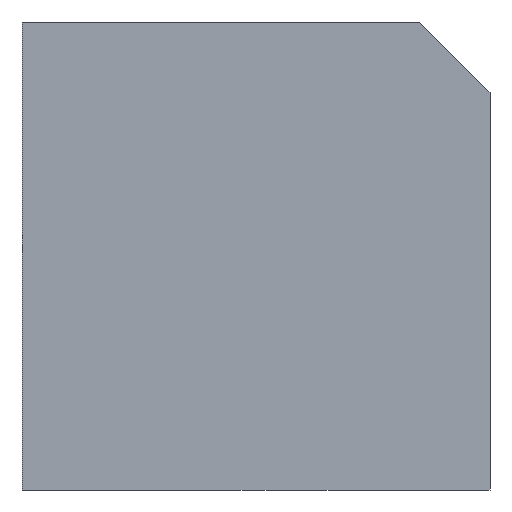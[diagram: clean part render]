
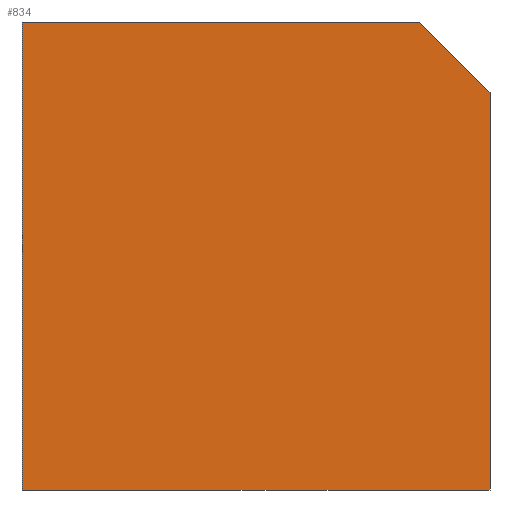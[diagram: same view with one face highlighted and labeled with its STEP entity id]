
A CAD part, front view. The second image highlights one B-rep face of the part: STEP entity #834.
In plain terms, the highlighted planar face has unit normal (0, -1, 0).
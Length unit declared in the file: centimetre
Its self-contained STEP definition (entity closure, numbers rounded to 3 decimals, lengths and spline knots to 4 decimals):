
#4 = ORIENTED_EDGE ( 'NONE', *, *, #789, .F. ) ;
#80 = LINE ( 'NONE', #619, #341 ) ;
#140 = LINE ( 'NONE', #876, #769 ) ;
#144 = DIRECTION ( 'NONE',  ( 1., 0., 0. ) ) ;
#146 = ORIENTED_EDGE ( 'NONE', *, *, #792, .T. ) ;
#184 = EDGE_CURVE ( 'NONE', #717, #553, #687, .T. ) ;
#193 = DIRECTION ( 'NONE',  ( 1., 0., 0. ) ) ;
#202 = ORIENTED_EDGE ( 'NONE', *, *, #184, .F. ) ;
#250 = CARTESIAN_POINT ( 'NONE',  ( 848.4063, 0., 1000. ) ) ;
#264 = LINE ( 'NONE', #520, #506 ) ;
#275 = VERTEX_POINT ( 'NONE', #471 ) ;
#277 = PLANE ( 'NONE',  #305 ) ;
#278 = ORIENTED_EDGE ( 'NONE', *, *, #348, .T. ) ;
#305 = AXIS2_PLACEMENT_3D ( 'NONE', #481, #613, #682 ) ;
#325 = CARTESIAN_POINT ( 'NONE',  ( 1000., 0., 848.4063 ) ) ;
#341 = VECTOR ( 'NONE', #679, 100. ) ;
#348 = EDGE_CURVE ( 'NONE', #717, #575, #80, .T. ) ;
#350 = FACE_OUTER_BOUND ( 'NONE', #775, .T. ) ;
#454 = LINE ( 'NONE', #736, #611 ) ;
#470 = ORIENTED_EDGE ( 'NONE', *, *, #828, .T. ) ;
#471 = CARTESIAN_POINT ( 'NONE',  ( 0., 0., 1000. ) ) ;
#481 = CARTESIAN_POINT ( 'NONE',  ( 0., 0., 1000. ) ) ;
#501 = CARTESIAN_POINT ( 'NONE',  ( 1000., 0., 0. ) ) ;
#506 = VECTOR ( 'NONE', #193, 100. ) ;
#520 = CARTESIAN_POINT ( 'NONE',  ( 0., 0., 1000. ) ) ;
#553 = VERTEX_POINT ( 'NONE', #501 ) ;
#566 = DIRECTION ( 'NONE',  ( 0., 0., -1. ) ) ;
#572 = CARTESIAN_POINT ( 'NONE',  ( 1000., 0., 1000. ) ) ;
#575 = VERTEX_POINT ( 'NONE', #250 ) ;
#607 = DIRECTION ( 'NONE',  ( 0., 0., -1. ) ) ;
#611 = VECTOR ( 'NONE', #144, 100. ) ;
#613 = DIRECTION ( 'NONE',  ( 0., 1., 0. ) ) ;
#619 = CARTESIAN_POINT ( 'NONE',  ( 848.4063, 0., 1000. ) ) ;
#636 = CARTESIAN_POINT ( 'NONE',  ( 0., 0., 0. ) ) ;
#669 = VERTEX_POINT ( 'NONE', #636 ) ;
#679 = DIRECTION ( 'NONE',  ( -0.707, 0., 0.707 ) ) ;
#682 = DIRECTION ( 'NONE',  ( 0., 0., 1. ) ) ;
#687 = LINE ( 'NONE', #572, #809 ) ;
#717 = VERTEX_POINT ( 'NONE', #325 ) ;
#736 = CARTESIAN_POINT ( 'NONE',  ( 0., 0., 0. ) ) ;
#769 = VECTOR ( 'NONE', #607, 100. ) ;
#775 = EDGE_LOOP ( 'NONE', ( #202, #278, #4, #470, #146 ) ) ;
#789 = EDGE_CURVE ( 'NONE', #275, #575, #264, .T. ) ;
#792 = EDGE_CURVE ( 'NONE', #669, #553, #454, .T. ) ;
#809 = VECTOR ( 'NONE', #566, 100. ) ;
#828 = EDGE_CURVE ( 'NONE', #275, #669, #140, .T. ) ;
#834 = ADVANCED_FACE ( 'NONE', ( #350 ), #277, .F. ) ;
#876 = CARTESIAN_POINT ( 'NONE',  ( 0., 0., 1000. ) ) ;
